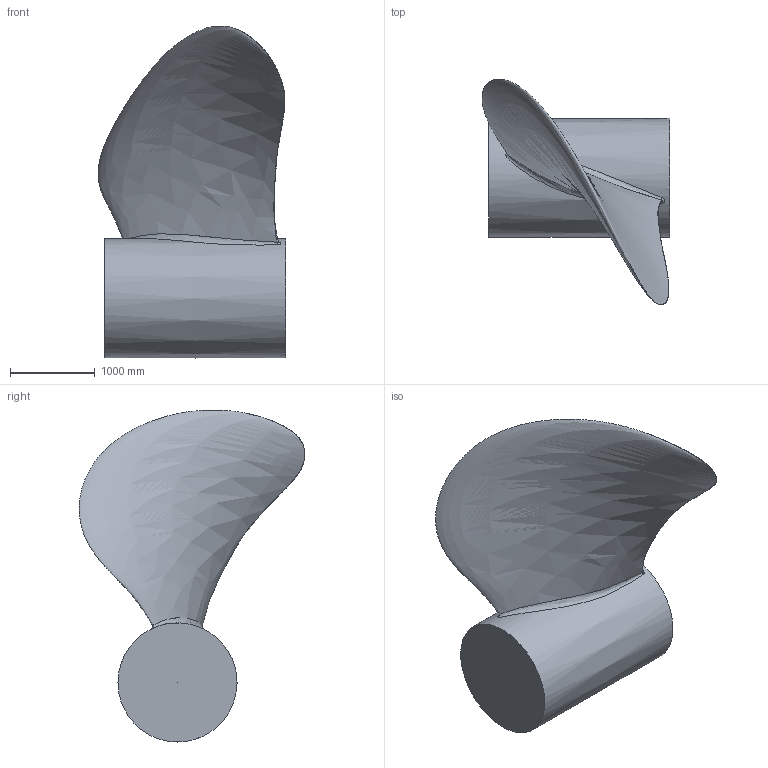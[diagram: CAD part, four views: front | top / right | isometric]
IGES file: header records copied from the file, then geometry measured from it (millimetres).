
Start section: Propeller 5525 - Geometry provided in full scale inches Propeller is right handed five bladed propeller, other blades equally  spaced around hub. Coordinate system based on shaft placed along X-axis, rotor reference  at X=0.0, Z axis is vertical + up Seven surfaces provided: Rotor blade surface, rotor trailing edge  fillet, fillet at trailing edge, hub, hub forward end, hub aft end. Propeller 5525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
Global section: file name:  ; native system:  ; preprocessor: DT_NURBS 1.0; author:  ; organization:  ; date:  ; units: inch
Bounding box: 2208.74 x 2656.24 x 3908.38 mm (x, y, z)
Surface area: 25962780.2 mm2 (no closed solid volume)
Topology: 0 solids, 0 shells, 7 faces, 25 edges, 20 vertices
Faces by surface type: bspline 7
